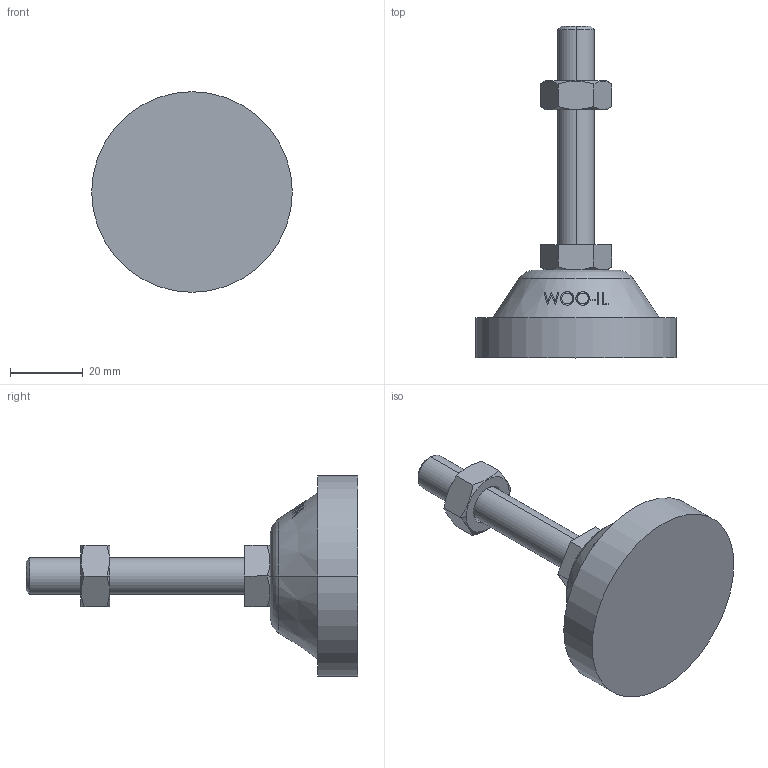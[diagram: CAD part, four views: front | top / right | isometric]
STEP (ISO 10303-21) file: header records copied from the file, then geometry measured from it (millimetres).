
FILE_DESCRIPTION (( 'STEP AP214' ), '1' );
FILE_NAME ('RL55-M10-60.step', '2021-01-06T08:16:38', ( '' ), ( '' ), 'SwSTEP 2.0', 'SolidWorks 2019', '' );
FILE_SCHEMA (( 'AUTOMOTIVE_DESIGN' ));
Length unit declared in the file: millimetre
Products named in the file (1): RL55-M10-60
Bounding box: 55 x 91 x 55 mm (x, y, z)
Volume: 48020.5 mm3; surface area: 11213.4 mm2
Topology: 3 solids, 3 shells, 93 faces, 217 edges, 140 vertices
Faces by surface type: plane 47, cone 22, bspline 16, cylinder 6, torus 2
Entity records: 4029 total; most frequent: CARTESIAN_POINT 1997, ORIENTED_EDGE 434, DIRECTION 349, EDGE_CURVE 217, VERTEX_POINT 140, AXIS2_PLACEMENT_3D 134, EDGE_LOOP 105, FACE_OUTER_BOUND 93
